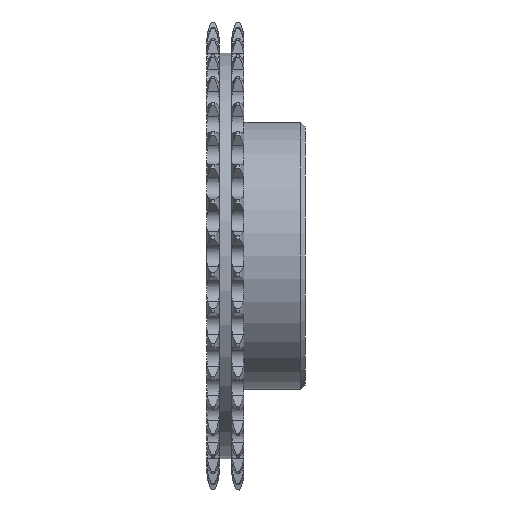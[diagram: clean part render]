
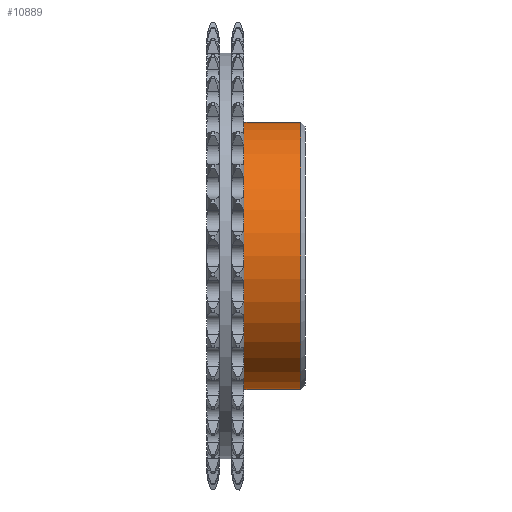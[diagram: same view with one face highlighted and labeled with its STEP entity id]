
A CAD part, front view. The second image highlights one B-rep face of the part: STEP entity #10889.
In plain terms, the highlighted cylindrical face has radius 30 mm (diameter 60 mm), a full revolution.
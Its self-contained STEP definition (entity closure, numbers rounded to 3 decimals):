
#1189=CYLINDRICAL_SURFACE('',#12063,30.);
#1693=LINE('',#21302,#2200);
#2200=VECTOR('',#14872,30.);
#2782=FACE_OUTER_BOUND('',#3372,.T.);
#3372=EDGE_LOOP('',(#10235,#10236,#10237,#10238));
#3824=CIRCLE('',#11816,30.);
#3947=CIRCLE('',#12064,30.);
#5089=VERTEX_POINT('',#21048);
#5092=VERTEX_POINT('',#21300);
#6683=EDGE_CURVE('',#5089,#5089,#3824,.T.);
#6807=EDGE_CURVE('',#5092,#5092,#3947,.T.);
#6808=EDGE_CURVE('',#5092,#5089,#1693,.T.);
#10235=ORIENTED_EDGE('',*,*,#6807,.F.);
#10236=ORIENTED_EDGE('',*,*,#6808,.T.);
#10237=ORIENTED_EDGE('',*,*,#6683,.T.);
#10238=ORIENTED_EDGE('',*,*,#6808,.F.);
#10889=ADVANCED_FACE('',(#2782),#1189,.T.);
#11816=AXIS2_PLACEMENT_3D('',#21049,#14373,#14374);
#12063=AXIS2_PLACEMENT_3D('',#21299,#14868,#14869);
#12064=AXIS2_PLACEMENT_3D('',#21301,#14870,#14871);
#14373=DIRECTION('center_axis',(1.,0.,0.));
#14374=DIRECTION('ref_axis',(0.,0.,-1.));
#14868=DIRECTION('center_axis',(1.,0.,0.));
#14869=DIRECTION('ref_axis',(0.,1.,0.));
#14870=DIRECTION('center_axis',(1.,0.,0.));
#14871=DIRECTION('ref_axis',(0.,0.,-1.));
#14872=DIRECTION('',(-1.,0.,0.));
#21048=CARTESIAN_POINT('',(8.3,-30.,0.));
#21049=CARTESIAN_POINT('Origin',(8.3,0.,0.));
#21299=CARTESIAN_POINT('Origin',(14.65,0.,0.));
#21300=CARTESIAN_POINT('',(21.,-30.,0.));
#21301=CARTESIAN_POINT('Origin',(21.,0.,0.));
#21302=CARTESIAN_POINT('',(14.65,-30.,0.));
